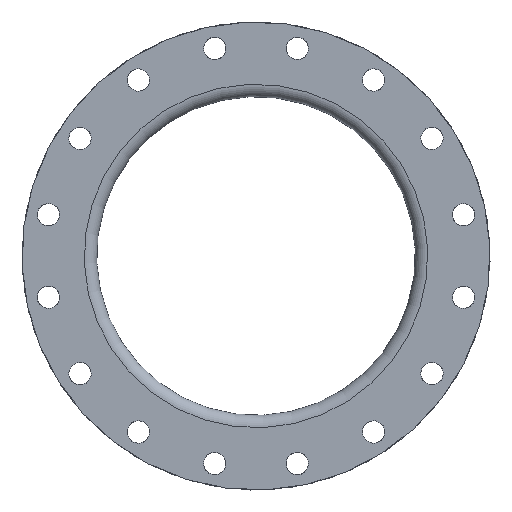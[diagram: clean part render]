
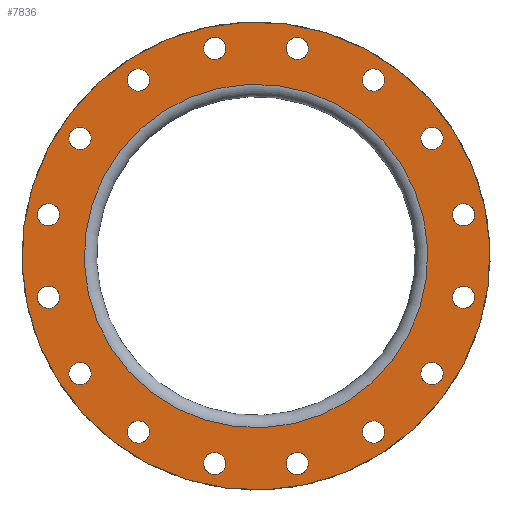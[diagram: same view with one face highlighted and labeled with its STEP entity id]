
A CAD part, left-side view. The second image highlights one B-rep face of the part: STEP entity #7836.
In plain terms, the highlighted planar face has unit normal (-1, 0, 0).
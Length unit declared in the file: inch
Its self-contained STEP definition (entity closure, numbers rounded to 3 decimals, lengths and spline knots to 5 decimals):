
#6881=CARTESIAN_POINT('',(-6.,9.04962,-5.38325));
#6882=VERTEX_POINT('',#6881);
#6883=CARTESIAN_POINT('',(-6.,8.83436,-5.90293));
#6884=DIRECTION('',(1.,0.0,0.0));
#6885=DIRECTION('',(0.0,-0.383,-0.924));
#6886=AXIS2_PLACEMENT_3D('',#6883,#6884,#6885);
#6887=CIRCLE('',#6886,0.5625);
#6888=EDGE_CURVE('',#6882,#6882,#6887,.T.);
#6909=CARTESIAN_POINT('',(-6.,6.30068,-8.43662));
#6910=VERTEX_POINT('',#6909);
#6911=CARTESIAN_POINT('',(-6.,5.90293,-8.83436));
#6912=DIRECTION('',(1.,0.0,0.0));
#6913=DIRECTION('',(0.0,-0.707,-0.707));
#6914=AXIS2_PLACEMENT_3D('',#6911,#6912,#6913);
#6915=CIRCLE('',#6914,0.5625);
#6916=EDGE_CURVE('',#6910,#6910,#6915,.T.);
#6937=CARTESIAN_POINT('',(-6.,2.59252,-10.20558));
#6938=VERTEX_POINT('',#6937);
#6939=CARTESIAN_POINT('',(-6.,2.07283,-10.42084));
#6940=DIRECTION('',(1.,0.0,0.0));
#6941=DIRECTION('',(0.0,-0.924,-0.383));
#6942=AXIS2_PLACEMENT_3D('',#6939,#6940,#6941);
#6943=CIRCLE('',#6942,0.5625);
#6944=EDGE_CURVE('',#6938,#6938,#6943,.T.);
#6965=CARTESIAN_POINT('',(-6.,-1.51033,-10.42084));
#6966=VERTEX_POINT('',#6965);
#6967=CARTESIAN_POINT('',(-6.,-2.07283,-10.42084));
#6968=DIRECTION('',(1.0,0.0,0.0));
#6969=DIRECTION('',(0.0,-1.0,0.0));
#6970=AXIS2_PLACEMENT_3D('',#6967,#6968,#6969);
#6971=CIRCLE('',#6970,0.5625);
#6972=EDGE_CURVE('',#6966,#6966,#6971,.T.);
#6993=CARTESIAN_POINT('',(-6.,-5.38325,-9.04962));
#6994=VERTEX_POINT('',#6993);
#6995=CARTESIAN_POINT('',(-6.,-5.90293,-8.83436));
#6996=DIRECTION('',(1.,0.0,0.0));
#6997=DIRECTION('',(0.0,-0.924,0.383));
#6998=AXIS2_PLACEMENT_3D('',#6995,#6996,#6997);
#6999=CIRCLE('',#6998,0.5625);
#7000=EDGE_CURVE('',#6994,#6994,#6999,.T.);
#7021=CARTESIAN_POINT('',(-6.,-8.43662,-6.30068));
#7022=VERTEX_POINT('',#7021);
#7023=CARTESIAN_POINT('',(-6.,-8.83436,-5.90293));
#7024=DIRECTION('',(1.0,0.0,0.0));
#7025=DIRECTION('',(0.0,-0.707,0.707));
#7026=AXIS2_PLACEMENT_3D('',#7023,#7024,#7025);
#7027=CIRCLE('',#7026,0.5625);
#7028=EDGE_CURVE('',#7022,#7022,#7027,.T.);
#7049=CARTESIAN_POINT('',(-6.,-10.20558,-2.59252));
#7050=VERTEX_POINT('',#7049);
#7051=CARTESIAN_POINT('',(-6.,-10.42084,-2.07283));
#7052=DIRECTION('',(1.,0.0,0.0));
#7053=DIRECTION('',(0.0,-0.383,0.924));
#7054=AXIS2_PLACEMENT_3D('',#7051,#7052,#7053);
#7055=CIRCLE('',#7054,0.5625);
#7056=EDGE_CURVE('',#7050,#7050,#7055,.T.);
#7077=CARTESIAN_POINT('',(-6.,-10.42084,1.51033));
#7078=VERTEX_POINT('',#7077);
#7079=CARTESIAN_POINT('',(-6.,-10.42084,2.07283));
#7080=DIRECTION('',(1.0,0.0,0.0));
#7081=DIRECTION('',(0.0,0.0,1.0));
#7082=AXIS2_PLACEMENT_3D('',#7079,#7080,#7081);
#7083=CIRCLE('',#7082,0.5625);
#7084=EDGE_CURVE('',#7078,#7078,#7083,.T.);
#7105=CARTESIAN_POINT('',(-6.,-9.04962,5.38325));
#7106=VERTEX_POINT('',#7105);
#7107=CARTESIAN_POINT('',(-6.,-8.83436,5.90293));
#7108=DIRECTION('',(1.,0.0,0.0));
#7109=DIRECTION('',(0.0,0.383,0.924));
#7110=AXIS2_PLACEMENT_3D('',#7107,#7108,#7109);
#7111=CIRCLE('',#7110,0.5625);
#7112=EDGE_CURVE('',#7106,#7106,#7111,.T.);
#7133=CARTESIAN_POINT('',(-6.,-6.30068,8.43662));
#7134=VERTEX_POINT('',#7133);
#7135=CARTESIAN_POINT('',(-6.,-5.90293,8.83436));
#7136=DIRECTION('',(1.0,0.0,0.0));
#7137=DIRECTION('',(0.0,0.707,0.707));
#7138=AXIS2_PLACEMENT_3D('',#7135,#7136,#7137);
#7139=CIRCLE('',#7138,0.5625);
#7140=EDGE_CURVE('',#7134,#7134,#7139,.T.);
#7161=CARTESIAN_POINT('',(-6.,-2.59252,10.20558));
#7162=VERTEX_POINT('',#7161);
#7163=CARTESIAN_POINT('',(-6.,-2.07283,10.42084));
#7164=DIRECTION('',(1.0,0.0,0.0));
#7165=DIRECTION('',(0.0,0.924,0.383));
#7166=AXIS2_PLACEMENT_3D('',#7163,#7164,#7165);
#7167=CIRCLE('',#7166,0.5625);
#7168=EDGE_CURVE('',#7162,#7162,#7167,.T.);
#7189=CARTESIAN_POINT('',(-6.,1.51033,10.42084));
#7190=VERTEX_POINT('',#7189);
#7191=CARTESIAN_POINT('',(-6.,2.07283,10.42084));
#7192=DIRECTION('',(1.0,0.0,0.0));
#7193=DIRECTION('',(0.0,1.0,0.0));
#7194=AXIS2_PLACEMENT_3D('',#7191,#7192,#7193);
#7195=CIRCLE('',#7194,0.5625);
#7196=EDGE_CURVE('',#7190,#7190,#7195,.T.);
#7217=CARTESIAN_POINT('',(-6.,5.38325,9.04962));
#7218=VERTEX_POINT('',#7217);
#7219=CARTESIAN_POINT('',(-6.,5.90293,8.83436));
#7220=DIRECTION('',(1.,0.0,0.0));
#7221=DIRECTION('',(0.0,0.924,-0.383));
#7222=AXIS2_PLACEMENT_3D('',#7219,#7220,#7221);
#7223=CIRCLE('',#7222,0.5625);
#7224=EDGE_CURVE('',#7218,#7218,#7223,.T.);
#7245=CARTESIAN_POINT('',(-6.,8.43662,6.30068));
#7246=VERTEX_POINT('',#7245);
#7247=CARTESIAN_POINT('',(-6.,8.83436,5.90293));
#7248=DIRECTION('',(1.0,0.0,0.0));
#7249=DIRECTION('',(0.0,0.707,-0.707));
#7250=AXIS2_PLACEMENT_3D('',#7247,#7248,#7249);
#7251=CIRCLE('',#7250,0.5625);
#7252=EDGE_CURVE('',#7246,#7246,#7251,.T.);
#7273=CARTESIAN_POINT('',(-6.,10.20558,2.59252));
#7274=VERTEX_POINT('',#7273);
#7275=CARTESIAN_POINT('',(-6.,10.42084,2.07283));
#7276=DIRECTION('',(1.,0.0,0.0));
#7277=DIRECTION('',(0.0,0.383,-0.924));
#7278=AXIS2_PLACEMENT_3D('',#7275,#7276,#7277);
#7279=CIRCLE('',#7278,0.5625);
#7280=EDGE_CURVE('',#7274,#7274,#7279,.T.);
#7301=CARTESIAN_POINT('',(-6.,10.42084,-1.51033));
#7302=VERTEX_POINT('',#7301);
#7303=CARTESIAN_POINT('',(-6.,10.42084,-2.07283));
#7304=DIRECTION('',(1.0,0.0,0.0));
#7305=DIRECTION('',(0.0,0.0,-1.0));
#7306=AXIS2_PLACEMENT_3D('',#7303,#7304,#7305);
#7307=CIRCLE('',#7306,0.5625);
#7308=EDGE_CURVE('',#7302,#7302,#7307,.T.);
#7761=CARTESIAN_POINT('',(-6.,11.6875,0.0));
#7762=DIRECTION('',(-1.0,0.0,0.0));
#7763=DIRECTION('',(0.0,0.0,1.0));
#7764=AXIS2_PLACEMENT_3D('',#7761,#7762,#7763);
#7765=PLANE('',#7764);
#7766=CARTESIAN_POINT('',(-6.,11.75,0.0));
#7767=VERTEX_POINT('',#7766);
#7768=CARTESIAN_POINT('',(-6.,0.,0.0));
#7769=DIRECTION('',(1.0,0.0,0.0));
#7770=DIRECTION('',(0.0,1.0,0.0));
#7771=AXIS2_PLACEMENT_3D('',#7768,#7769,#7770);
#7772=CIRCLE('',#7771,11.75);
#7773=EDGE_CURVE('',#7767,#7767,#7772,.T.);
#7774=ORIENTED_EDGE('',*,*,#7773,.F.);
#7775=EDGE_LOOP('',(#7774));
#7776=FACE_OUTER_BOUND('',#7775,.T.);
#7777=ORIENTED_EDGE('',*,*,#6888,.T.);
#7778=EDGE_LOOP('',(#7777));
#7779=FACE_BOUND('',#7778,.T.);
#7780=ORIENTED_EDGE('',*,*,#6916,.T.);
#7781=EDGE_LOOP('',(#7780));
#7782=FACE_BOUND('',#7781,.T.);
#7783=ORIENTED_EDGE('',*,*,#6944,.T.);
#7784=EDGE_LOOP('',(#7783));
#7785=FACE_BOUND('',#7784,.T.);
#7786=ORIENTED_EDGE('',*,*,#6972,.T.);
#7787=EDGE_LOOP('',(#7786));
#7788=FACE_BOUND('',#7787,.T.);
#7789=ORIENTED_EDGE('',*,*,#7000,.T.);
#7790=EDGE_LOOP('',(#7789));
#7791=FACE_BOUND('',#7790,.T.);
#7792=ORIENTED_EDGE('',*,*,#7028,.T.);
#7793=EDGE_LOOP('',(#7792));
#7794=FACE_BOUND('',#7793,.T.);
#7795=ORIENTED_EDGE('',*,*,#7056,.T.);
#7796=EDGE_LOOP('',(#7795));
#7797=FACE_BOUND('',#7796,.T.);
#7798=ORIENTED_EDGE('',*,*,#7084,.T.);
#7799=EDGE_LOOP('',(#7798));
#7800=FACE_BOUND('',#7799,.T.);
#7801=ORIENTED_EDGE('',*,*,#7112,.T.);
#7802=EDGE_LOOP('',(#7801));
#7803=FACE_BOUND('',#7802,.T.);
#7804=ORIENTED_EDGE('',*,*,#7140,.T.);
#7805=EDGE_LOOP('',(#7804));
#7806=FACE_BOUND('',#7805,.T.);
#7807=ORIENTED_EDGE('',*,*,#7168,.T.);
#7808=EDGE_LOOP('',(#7807));
#7809=FACE_BOUND('',#7808,.T.);
#7810=ORIENTED_EDGE('',*,*,#7196,.T.);
#7811=EDGE_LOOP('',(#7810));
#7812=FACE_BOUND('',#7811,.T.);
#7813=ORIENTED_EDGE('',*,*,#7224,.T.);
#7814=EDGE_LOOP('',(#7813));
#7815=FACE_BOUND('',#7814,.T.);
#7816=ORIENTED_EDGE('',*,*,#7252,.T.);
#7817=EDGE_LOOP('',(#7816));
#7818=FACE_BOUND('',#7817,.T.);
#7819=ORIENTED_EDGE('',*,*,#7280,.T.);
#7820=EDGE_LOOP('',(#7819));
#7821=FACE_BOUND('',#7820,.T.);
#7822=ORIENTED_EDGE('',*,*,#7308,.T.);
#7823=EDGE_LOOP('',(#7822));
#7824=FACE_BOUND('',#7823,.T.);
#7825=CARTESIAN_POINT('',(-6.,8.625,0.0));
#7826=VERTEX_POINT('',#7825);
#7827=CARTESIAN_POINT('',(-6.,0.,0.0));
#7828=DIRECTION('',(1.0,0.0,0.0));
#7829=DIRECTION('',(0.0,1.0,0.0));
#7830=AXIS2_PLACEMENT_3D('',#7827,#7828,#7829);
#7831=CIRCLE('',#7830,8.625);
#7832=EDGE_CURVE('',#7826,#7826,#7831,.T.);
#7833=ORIENTED_EDGE('',*,*,#7832,.T.);
#7834=EDGE_LOOP('',(#7833));
#7835=FACE_BOUND('',#7834,.T.);
#7836=ADVANCED_FACE('',(#7776,#7779,#7782,#7785,#7788,#7791,#7794,#7797,#7800,#7803,#7806,#7809,#7812,#7815,#7818,#7821,#7824,#7835),#7765,.T.);
